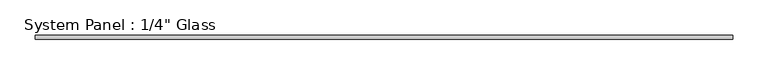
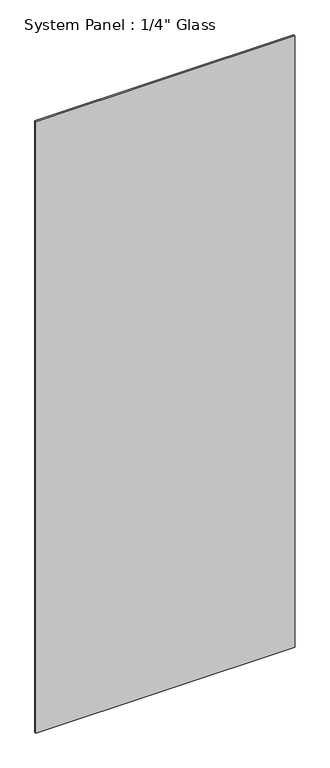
"""IFC4 building model written with IfcOpenShell, lengths in millimetres: plate geometry."""

from ifc_helpers import new_model, si_unit, origin, origin_with_axes, place, context, project, spatial, polyline, outline, extrude, source, transform, mapped, element, save


def plate_ce959b8d(model_context):
    return source(origin(), model_context, "Body", "SweptSolid", [
        extrude(outline(polyline([(498.4722487, -3.175), (-498.4722487, -3.175), (-498.4722487, 3.175), (498.4722487, 3.175), (498.4722487, -3.175)])), origin_with_axes(), (0.0, 0.0, 1.0), 2489.2),
    ])


if __name__ == "__main__":
    model = new_model("IFC4")
    model_context = context("Model", 3, world=origin())
    ifc_project = project(units=[si_unit("LENGTHUNIT", "METRE", prefix="MILLI")], contexts=[model_context])
    site = spatial("IfcSite", under=ifc_project)
    building = spatial("IfcBuilding", under=site)
    placement = place(None, origin())
    plate_shape = plate_ce959b8d(model_context)
    element("IfcPlate", 1, ObjectType="System Panel : 1/4\" Glass", at=placement, inside=building, context=model_context, shape_type="MappedRepresentation", body=[
        mapped(plate_shape, transform((0.0, 0.0, 0.0), x_axis=(1.0, 0.0, 0.0), y_axis=(0.0, 1.0, 0.0), z_axis=(0.0, 0.0, 1.0))),
    ])
    save(model, "model.ifc")
